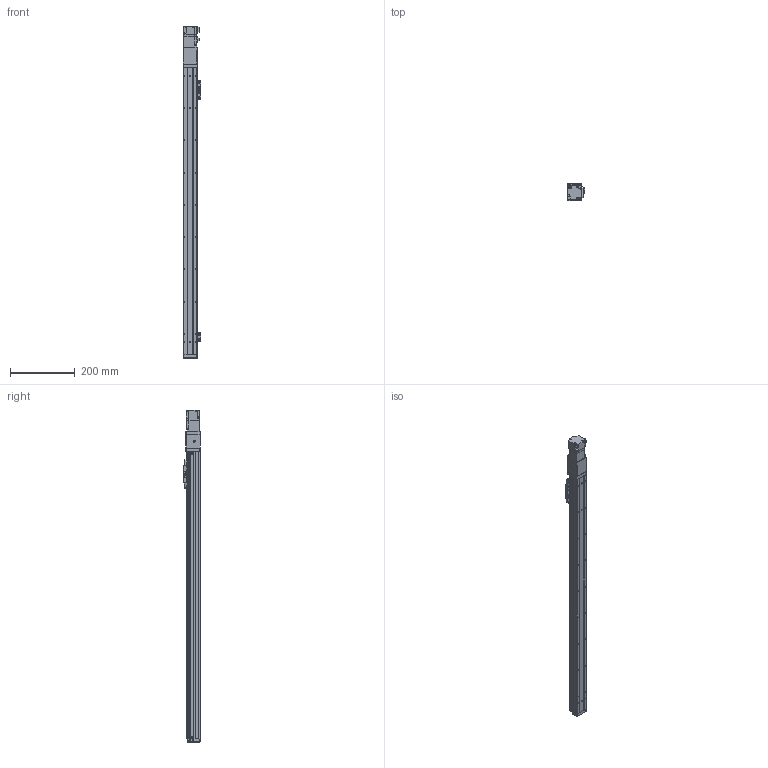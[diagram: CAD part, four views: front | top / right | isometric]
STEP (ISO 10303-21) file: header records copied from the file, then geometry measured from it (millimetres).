
FILE_DESCRIPTION (( 'STEP AP203' ), '1' );
FILE_NAME ('GTH4-750-BC-M05-C4.step', '2023-08-28T00:40:05', ( '微软用户' ), ( '微软中国' ), 'SwSTEP 2.0', 'SolidWorks 2020', '' );
FILE_SCHEMA (( 'CONFIG_CONTROL_DESIGN' ));
Length unit declared in the file: millimetre
Products named in the file (19): BTH40-017_笢俶; BTH-M3X5X6; BTH40-022; BTH40-005-1; GBT70.1-2000 M3×16; GBT 70.1-M2.5×6; GTH4-750-BC-M05-C4; BTH50-028; BTH40-004; BTH50-023; BTH40-013; BTH40-001-50_BTH40-001-750; BTH50-024; HG-KR13; BTH40-003; GBT 70.1-M3℅6; GBT 70.3-M3℅6; BTH40-006; GBT96.1-2002 3×0.8
Assembly tree (49 placements, depth 2):
  GTH4-750-BC-M05-C4
    BTH40-001-50_BTH40-001-750
    BTH40-003
    BTH40-006
    BTH-M3X5X6  x10
    GBT70.1-2000 M3×16  x4
    BTH50-028  x2
    BTH50-023  x3
    BTH50-024  x3
    GBT 70.1-M3℅6  x6
    GBT96.1-2002 3×0.8  x6
    BTH40-022
    GBT 70.1-M2.5×6  x2
    BTH40-004
    BTH40-013
    HG-KR13
    GBT 70.3-M3℅6  x4
    BTH40-017_笢俶
    BTH40-005-1
Bounding box: 55.2 x 52 x 1029.4 mm (x, y, z)
Volume: 1581379.2 mm3; surface area: 276765.6 mm2
Topology: 51 solids, 51 shells, 1876 faces, 4410 edges, 2726 vertices
Faces by surface type: plane 1026, cylinder 477, cone 237, torus 132, sphere 4
Entity records: 34736 total; most frequent: DIRECTION 5629, CARTESIAN_POINT 5619, ORIENTED_EDGE 5282, EDGE_CURVE 2641, AXIS2_PLACEMENT_3D 1899, LINE 1831, VECTOR 1831, VERTEX_POINT 1657
